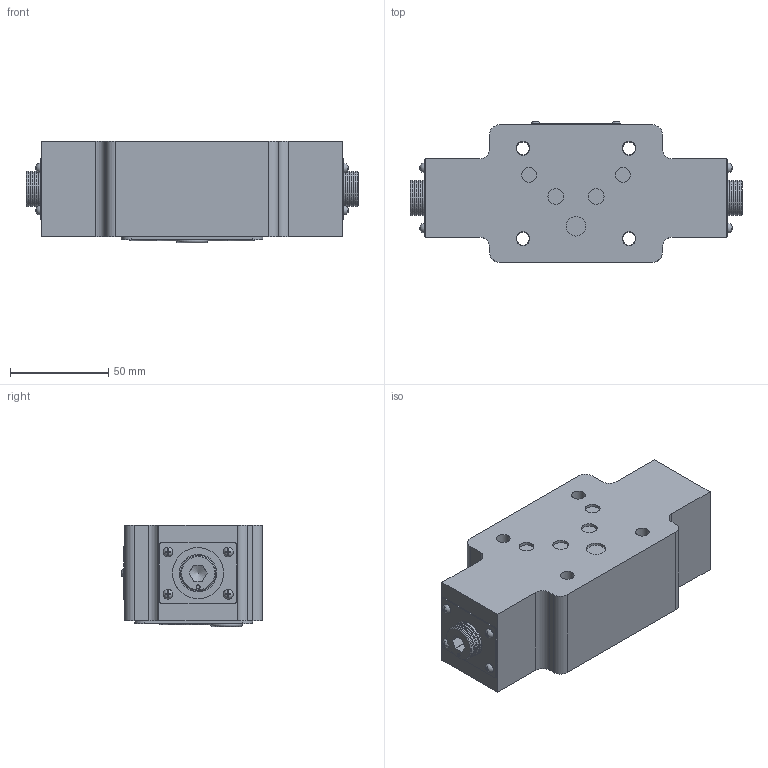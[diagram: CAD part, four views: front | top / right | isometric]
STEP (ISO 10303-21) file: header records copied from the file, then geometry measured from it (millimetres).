
FILE_DESCRIPTION(/* description */ (''),/* implementation_level */ '2;1');
FILE_NAME(/* name */ 'Z2FS10-3XJ-S叠加式单向节流阀.prt.stp',/* time_stamp */ '2022-03-30T20:05:39+08:00',/* author */ (''),/* organization */ (''),/* preprocessor_version */ 'ST-DEVELOPER v16.7',/* originating_system */ 'SIEMENS PLM Software NX 12.0',/* authorisation */ '');
FILE_SCHEMA (('AUTOMOTIVE_DESIGN { 1 0 10303 214 3 1 1 1 }'));
Products named in the file (1): Z2FS10-3XJ-S叠加式单向节流阀
Bounding box: 169 x 71.6 x 51.6 mm (x, y, z)
Volume: 64440.8 mm3; surface area: 77981.1 mm2
Topology: 29 solids, 30 shells, 486 faces, 1151 edges, 763 vertices
Faces by surface type: plane 252, cylinder 151, cone 38, bspline 24, torus 13, sphere 8
Full cylindrical faces by diameter (mm): 1.8 x4, 2 x2, 2.5 x2, 3 x8, 4 x8, 6.5 x4, 6.7 x4, 7 x8, 7.5 x4, 8 x4, 10 x2, 15.7 x5, 17 x14, 18 x14, 19 x2, 24.268 x22, 26 x2
Entity records: 43112 total; most frequent: CARTESIAN_POINT 32816, DIRECTION 2054, ORIENTED_EDGE 1776, EDGE_CURVE 888, AXIS2_PLACEMENT_3D 849, EDGE_LOOP 694, VERTEX_POINT 679, ADVANCED_FACE 466
